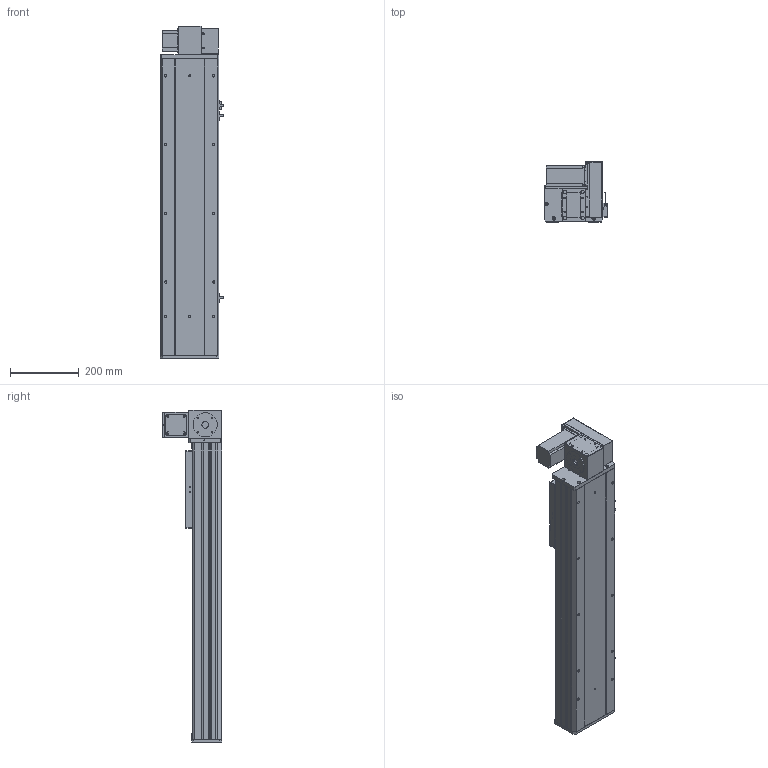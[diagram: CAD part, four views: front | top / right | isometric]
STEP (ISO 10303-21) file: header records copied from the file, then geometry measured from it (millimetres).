
FILE_DESCRIPTION (( 'STEP AP203' ), '1' );
FILE_NAME ('Y170CB-D105-S550-UR-P400W.STEP', '2020-02-20T03:50:58', ( '微软用户' ), ( '微软中国' ), 'SwSTEP 2.0', 'SolidWorks 2017', '' );
FILE_SCHEMA (( 'CONFIG_CONTROL_DESIGN' ));
Length unit declared in the file: millimetre
Products named in the file (18): Y100-135俋离換覜ん--; 70CB-掛极-; Y170CB-陔俋离換覜結え---; --70CB --喘謫眊楊擘啣-; Y1埴倛裔; 70CB-耜裔啣-; 17B-耜蚾蟀諉啣----; 70C--詩湍揤踡え-; 00B-俋欶BM--163; 70CB--耜裔; 70B喘謫眊----; 70C-雄赽釱-奻-; B-源倛裔啣; Y170CB-D105-S550-UR-P400W; 0C--雄赽釱俋欶-170; 0B-萇儂楊擘啣; 70CB-詩湍--; san松下电机400不带刹车----
Assembly tree (21 placements, depth 2):
  Y170CB-D105-S550-UR-P400W
    B-源倛裔啣
    0B-萇儂楊擘啣
    san松下电机400不带刹车----
    70CB-掛极-
    --70CB --喘謫眊楊擘啣-
    70CB-耜裔啣-  x2
    70C--詩湍揤踡え-  x2
    70CB--耜裔
    70C-雄赽釱-奻-
    0C--雄赽釱俋欶-170
    70CB-詩湍--
    Y100-135俋离換覜ん--  x3
    Y170CB-陔俋离換覜結え---
    Y1埴倛裔
    17B-耜蚾蟀諉啣----
    00B-俋欶BM--163
    70B喘謫眊----
Bounding box: 183.5 x 174 x 966 mm (x, y, z)
Volume: 4767438.6 mm3; surface area: 1698758.3 mm2
Topology: 21 solids, 21 shells, 991 faces, 2645 edges, 1754 vertices
Faces by surface type: cylinder 505, plane 462, cone 24
Entity records: 31452 total; most frequent: CARTESIAN_POINT 5736, DIRECTION 5114, ORIENTED_EDGE 4772, EDGE_CURVE 2386, AXIS2_PLACEMENT_3D 1868, VERTEX_POINT 1584, LINE 1378, VECTOR 1378
